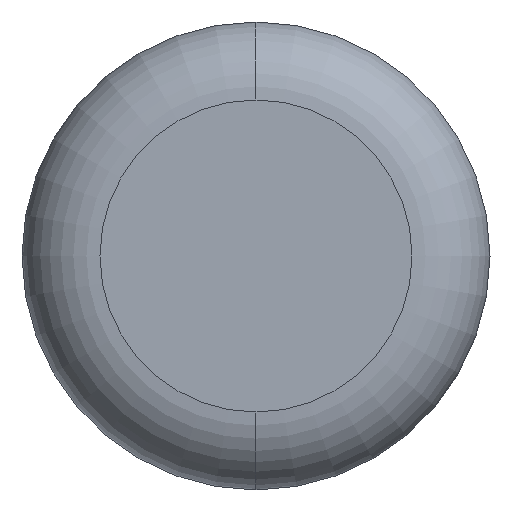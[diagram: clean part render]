
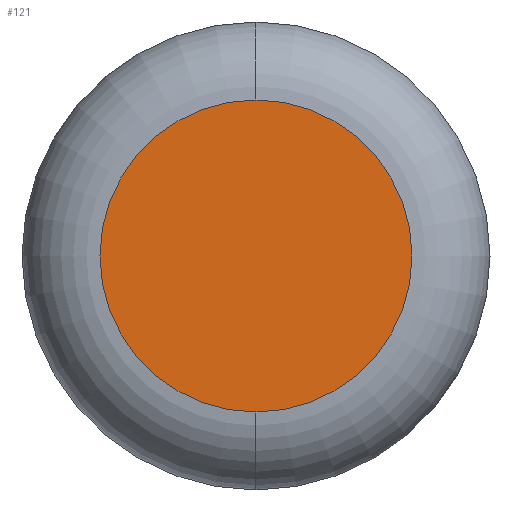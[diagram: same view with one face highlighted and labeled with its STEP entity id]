
A CAD part, left-side view. The second image highlights one B-rep face of the part: STEP entity #121.
In plain terms, the highlighted planar face has unit normal (-1, 0, 0).
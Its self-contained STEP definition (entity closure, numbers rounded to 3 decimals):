
#7 = CARTESIAN_POINT ( 'NONE',  ( 0., 0., 0. ) ) ;
#9 = DIRECTION ( 'NONE',  ( 0., 0., -1. ) ) ;
#14 = DIRECTION ( 'NONE',  ( -1., 0., 0. ) ) ;
#33 = DIRECTION ( 'NONE',  ( 0., 0., -1. ) ) ;
#70 = DIRECTION ( 'NONE',  ( -1., 0., 0. ) ) ;
#76 = AXIS2_PLACEMENT_3D ( 'NONE', #7, #70, #33 ) ;
#82 = ORIENTED_EDGE ( 'NONE', *, *, #160, .T. ) ;
#84 = DIRECTION ( 'NONE',  ( 0., 0., -1. ) ) ;
#92 = AXIS2_PLACEMENT_3D ( 'NONE', #197, #180, #84 ) ;
#93 = VERTEX_POINT ( 'NONE', #152 ) ;
#121 = ADVANCED_FACE ( 'NONE', ( #190 ), #142, .F. ) ;
#139 = ORIENTED_EDGE ( 'NONE', *, *, #183, .T. ) ;
#140 = VERTEX_POINT ( 'NONE', #146 ) ;
#142 = PLANE ( 'NONE',  #92 ) ;
#144 = AXIS2_PLACEMENT_3D ( 'NONE', #200, #14, #9 ) ;
#146 = CARTESIAN_POINT ( 'NONE',  ( 0., 0., -1. ) ) ;
#147 = EDGE_LOOP ( 'NONE', ( #82, #139 ) ) ;
#152 = CARTESIAN_POINT ( 'NONE',  ( 0., 0., 1. ) ) ;
#160 = EDGE_CURVE ( 'NONE', #140, #93, #207, .T. ) ;
#162 = CIRCLE ( 'NONE', #144, 1. ) ;
#180 = DIRECTION ( 'NONE',  ( 1., 0., 0. ) ) ;
#183 = EDGE_CURVE ( 'NONE', #93, #140, #162, .T. ) ;
#190 = FACE_OUTER_BOUND ( 'NONE', #147, .T. ) ;
#197 = CARTESIAN_POINT ( 'NONE',  ( 0., 0., 0. ) ) ;
#200 = CARTESIAN_POINT ( 'NONE',  ( 0., 0., 0. ) ) ;
#207 = CIRCLE ( 'NONE', #76, 1. ) ;
